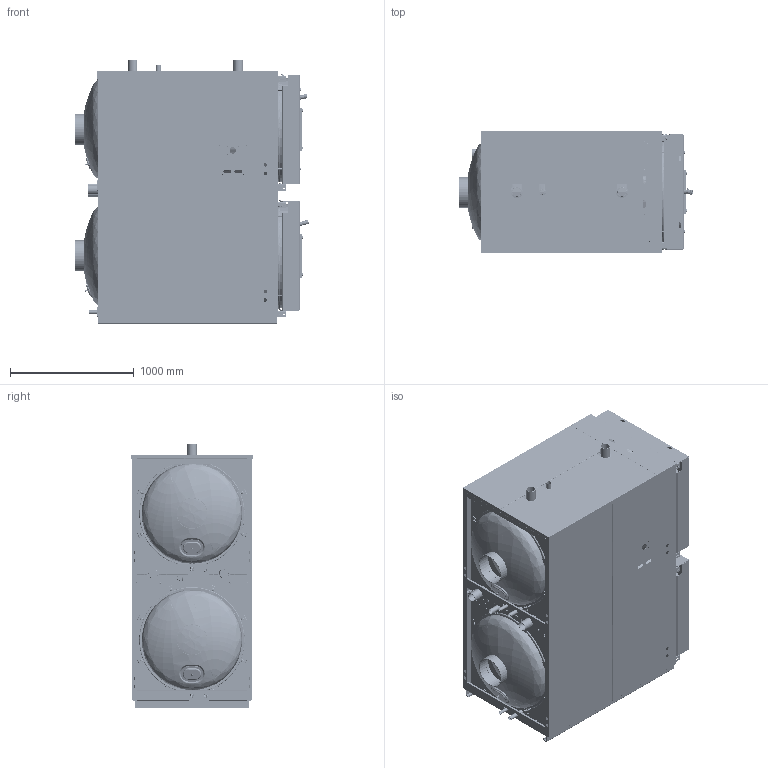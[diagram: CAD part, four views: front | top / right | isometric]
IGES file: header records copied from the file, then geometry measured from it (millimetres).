
Start section: START RECORD GO HERE.
Global section: file name: 20067754-20067756  RTQ 2F 836-934 2S.igs; native system: DASSAULT SYSTEMES CATIA V5 R20 - www.3ds.com; preprocessor: CATIA Version 5 Release 20 SP 6 ; author: Riello S.p.A.; organization: RIELLO-IT; date: 20131017.172048; units: millimetre
Bounding box: 1887.47 x 981.1 x 2130 mm (x, y, z)
Surface area: 76608803.5 mm2 (no closed solid volume)
Topology: 0 solids, 0 shells, 10171 faces, 50420 edges, 50280 vertices
Faces by surface type: plane 5119, revolution 4249, bspline 803
